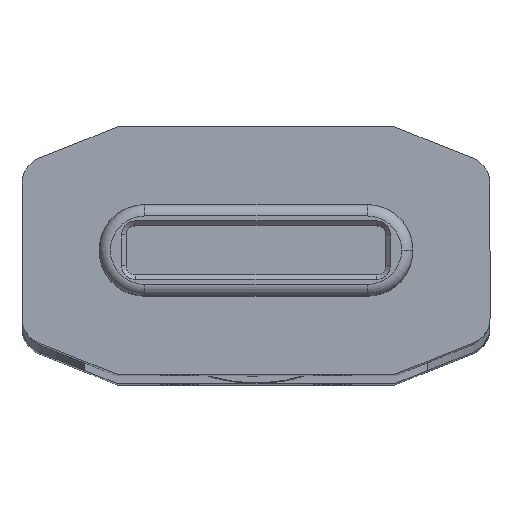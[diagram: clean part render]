
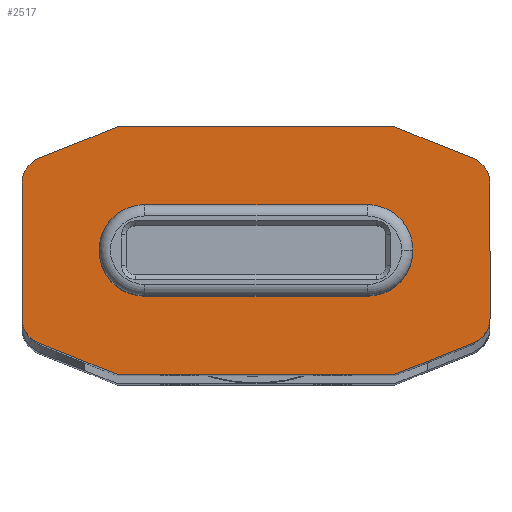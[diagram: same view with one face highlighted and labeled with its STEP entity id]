
A CAD part, top view. The second image highlights one B-rep face of the part: STEP entity #2517.
In plain terms, the highlighted planar face has unit normal (0, 0, 1) as drawn and (0, 0, -1) by its records, which use the part's own axes.
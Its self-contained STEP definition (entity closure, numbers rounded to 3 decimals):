
#146 = CARTESIAN_POINT ( 'NONE',  ( 2.925, 1.2, 0. ) ) ;
#154 = CARTESIAN_POINT ( 'NONE',  ( -6.15, -1.776, 0. ) ) ;
#155 = CARTESIAN_POINT ( 'NONE',  ( 5.71, -2.426, 0. ) ) ;
#159 = CARTESIAN_POINT ( 'NONE',  ( 3.65, -3.25, 0. ) ) ;
#160 = CARTESIAN_POINT ( 'NONE',  ( -5.71, 2.426, 0. ) ) ;
#169 = CARTESIAN_POINT ( 'NONE',  ( -2.925, 1.2, 0. ) ) ;
#296 = EDGE_CURVE ( 'NONE', #2759, #2791, #940, .T. ) ;
#311 = EDGE_CURVE ( 'NONE', #2791, #2383, #938, .T. ) ;
#326 = EDGE_CURVE ( 'NONE', #2383, #2074, #937, .T. ) ;
#424 = CARTESIAN_POINT ( 'NONE',  ( 0., 0., 0. ) ) ;
#429 = PLANE ( 'NONE',  #518 ) ;
#434 = DIRECTION ( 'NONE',  ( 0., 0., 1. ) ) ;
#435 = DIRECTION ( 'NONE',  ( 1., 0., 0. ) ) ;
#518 = AXIS2_PLACEMENT_3D ( 'NONE', #424, #434, #435 ) ;
#851 = CIRCLE ( 'NONE', #1250, 1.2 ) ;
#892 = LINE ( 'NONE', #1882, #897 ) ;
#897 = VECTOR ( 'NONE', #1889, 1000. ) ;
#898 = LINE ( 'NONE', #1892, #901 ) ;
#900 = LINE ( 'NONE', #1905, #913 ) ;
#901 = VECTOR ( 'NONE', #1893, 1000. ) ;
#910 = CIRCLE ( 'NONE', #1255, 0.7 ) ;
#913 = VECTOR ( 'NONE', #1910, 1000. ) ;
#923 = LINE ( 'NONE', #1923, #924 ) ;
#924 = VECTOR ( 'NONE', #1924, 1000. ) ;
#925 = CIRCLE ( 'NONE', #1256, 0.7 ) ;
#926 = LINE ( 'NONE', #1925, #928 ) ;
#927 = LINE ( 'NONE', #1935, #930 ) ;
#928 = VECTOR ( 'NONE', #1926, 1000. ) ;
#929 = CIRCLE ( 'NONE', #1257, 0.7 ) ;
#930 = VECTOR ( 'NONE', #1936, 1000. ) ;
#931 = LINE ( 'NONE', #1930, #933 ) ;
#932 = CIRCLE ( 'NONE', #1258, 0.7 ) ;
#933 = VECTOR ( 'NONE', #1931, 1000. ) ;
#934 = LINE ( 'NONE', #1937, #936 ) ;
#935 = CIRCLE ( 'NONE', #1259, 1.2 ) ;
#936 = VECTOR ( 'NONE', #1938, 1000. ) ;
#937 = LINE ( 'NONE', #1942, #939 ) ;
#938 = CIRCLE ( 'NONE', #1260, 1.2 ) ;
#939 = VECTOR ( 'NONE', #1943, 1000. ) ;
#940 = LINE ( 'NONE', #1947, #942 ) ;
#942 = VECTOR ( 'NONE', #1948, 1000. ) ;
#1250 = AXIS2_PLACEMENT_3D ( 'NONE', #1647, #1648, #1649 ) ;
#1255 = AXIS2_PLACEMENT_3D ( 'NONE', #1927, #1928, #1929 ) ;
#1256 = AXIS2_PLACEMENT_3D ( 'NONE', #1932, #1933, #1934 ) ;
#1257 = AXIS2_PLACEMENT_3D ( 'NONE', #1939, #1940, #1941 ) ;
#1258 = AXIS2_PLACEMENT_3D ( 'NONE', #1944, #1945, #1946 ) ;
#1259 = AXIS2_PLACEMENT_3D ( 'NONE', #1949, #1950, #1951 ) ;
#1260 = AXIS2_PLACEMENT_3D ( 'NONE', #1952, #1953, #1954 ) ;
#1647 = CARTESIAN_POINT ( 'NONE',  ( 2.925, 0., 0. ) ) ;
#1648 = DIRECTION ( 'NONE',  ( 0., 0., -1. ) ) ;
#1649 = DIRECTION ( 'NONE',  ( -1., 0., 0. ) ) ;
#1725 = CARTESIAN_POINT ( 'NONE',  ( -5.71, -2.426, 0. ) ) ;
#1733 = CARTESIAN_POINT ( 'NONE',  ( 5.71, 2.426, 0. ) ) ;
#1736 = CARTESIAN_POINT ( 'NONE',  ( -3.65, 3.25, 0. ) ) ;
#1766 = CARTESIAN_POINT ( 'NONE',  ( 4.125, 0., 0. ) ) ;
#1767 = CARTESIAN_POINT ( 'NONE',  ( 2.925, -1.2, 0. ) ) ;
#1775 = CARTESIAN_POINT ( 'NONE',  ( 3.65, 3.25, 0. ) ) ;
#1782 = CARTESIAN_POINT ( 'NONE',  ( 6.15, 1.776, 0. ) ) ;
#1792 = CARTESIAN_POINT ( 'NONE',  ( 6.15, -1.776, 0. ) ) ;
#1796 = CARTESIAN_POINT ( 'NONE',  ( -3.65, -3.25, 0. ) ) ;
#1797 = CARTESIAN_POINT ( 'NONE',  ( -6.15, 1.776, 0. ) ) ;
#1799 = CARTESIAN_POINT ( 'NONE',  ( -2.925, -1.2, 0. ) ) ;
#1882 = CARTESIAN_POINT ( 'NONE',  ( -6.15, -3.25, 0. ) ) ;
#1889 = DIRECTION ( 'NONE',  ( 1., 0., 0. ) ) ;
#1892 = CARTESIAN_POINT ( 'NONE',  ( 6.15, 3.25, 0. ) ) ;
#1893 = DIRECTION ( 'NONE',  ( 0., 1., 0. ) ) ;
#1905 = CARTESIAN_POINT ( 'NONE',  ( -6.15, 3.25, 0. ) ) ;
#1910 = DIRECTION ( 'NONE',  ( -1., 0., 0. ) ) ;
#1923 = CARTESIAN_POINT ( 'NONE',  ( 3.65, 3.25, 0. ) ) ;
#1924 = DIRECTION ( 'NONE',  ( 0.928, -0.371, 0. ) ) ;
#1925 = CARTESIAN_POINT ( 'NONE',  ( 6.15, -2.25, 0. ) ) ;
#1926 = DIRECTION ( 'NONE',  ( -0.928, -0.371, 0. ) ) ;
#1927 = CARTESIAN_POINT ( 'NONE',  ( 5.45, 1.776, 0. ) ) ;
#1928 = DIRECTION ( 'NONE',  ( 0., 0., -1. ) ) ;
#1929 = DIRECTION ( 'NONE',  ( 1., 0., 0. ) ) ;
#1930 = CARTESIAN_POINT ( 'NONE',  ( -6.15, 3.25, 0. ) ) ;
#1931 = DIRECTION ( 'NONE',  ( 0., -1., 0. ) ) ;
#1932 = CARTESIAN_POINT ( 'NONE',  ( 5.45, -1.776, 0. ) ) ;
#1933 = DIRECTION ( 'NONE',  ( 0., 0., -1. ) ) ;
#1934 = DIRECTION ( 'NONE',  ( 1., 0., 0. ) ) ;
#1935 = CARTESIAN_POINT ( 'NONE',  ( -3.65, -3.25, 0. ) ) ;
#1936 = DIRECTION ( 'NONE',  ( -0.928, 0.371, 0. ) ) ;
#1937 = CARTESIAN_POINT ( 'NONE',  ( -6.15, 2.25, 0. ) ) ;
#1938 = DIRECTION ( 'NONE',  ( 0.928, 0.371, 0. ) ) ;
#1939 = CARTESIAN_POINT ( 'NONE',  ( -5.45, -1.776, 0. ) ) ;
#1940 = DIRECTION ( 'NONE',  ( 0., 0., -1. ) ) ;
#1941 = DIRECTION ( 'NONE',  ( 1., 0., 0. ) ) ;
#1942 = CARTESIAN_POINT ( 'NONE',  ( 2.925, 1.2, 0. ) ) ;
#1943 = DIRECTION ( 'NONE',  ( 1., 0., 0. ) ) ;
#1944 = CARTESIAN_POINT ( 'NONE',  ( -5.45, 1.776, 0. ) ) ;
#1945 = DIRECTION ( 'NONE',  ( 0., 0., -1. ) ) ;
#1946 = DIRECTION ( 'NONE',  ( 1., 0., 0. ) ) ;
#1947 = CARTESIAN_POINT ( 'NONE',  ( 2.925, -1.2, 0. ) ) ;
#1948 = DIRECTION ( 'NONE',  ( -1., 0., 0. ) ) ;
#1949 = CARTESIAN_POINT ( 'NONE',  ( 2.925, 0., 0. ) ) ;
#1950 = DIRECTION ( 'NONE',  ( 0., 0., -1. ) ) ;
#1951 = DIRECTION ( 'NONE',  ( -1., 0., 0. ) ) ;
#1952 = CARTESIAN_POINT ( 'NONE',  ( -2.925, 0., 0. ) ) ;
#1953 = DIRECTION ( 'NONE',  ( 0., 0., -1. ) ) ;
#1954 = DIRECTION ( 'NONE',  ( -1., 0., 0. ) ) ;
#2074 = VERTEX_POINT ( 'NONE', #146 ) ;
#2083 = VERTEX_POINT ( 'NONE', #154 ) ;
#2084 = VERTEX_POINT ( 'NONE', #155 ) ;
#2241 = VERTEX_POINT ( 'NONE', #159 ) ;
#2319 = VERTEX_POINT ( 'NONE', #160 ) ;
#2383 = VERTEX_POINT ( 'NONE', #169 ) ;
#2517 = ADVANCED_FACE ( 'NONE', ( #3205, #3212 ), #429, .F. ) ;
#2697 = EDGE_CURVE ( 'NONE', #2758, #2759, #851, .T. ) ;
#2715 = VERTEX_POINT ( 'NONE', #1725 ) ;
#2725 = VERTEX_POINT ( 'NONE', #1733 ) ;
#2728 = VERTEX_POINT ( 'NONE', #1736 ) ;
#2758 = VERTEX_POINT ( 'NONE', #1766 ) ;
#2759 = VERTEX_POINT ( 'NONE', #1767 ) ;
#2767 = VERTEX_POINT ( 'NONE', #1775 ) ;
#2774 = VERTEX_POINT ( 'NONE', #1782 ) ;
#2784 = VERTEX_POINT ( 'NONE', #1792 ) ;
#2788 = VERTEX_POINT ( 'NONE', #1796 ) ;
#2789 = VERTEX_POINT ( 'NONE', #1797 ) ;
#2791 = VERTEX_POINT ( 'NONE', #1799 ) ;
#2816 = ORIENTED_EDGE ( 'NONE', *, *, #3325, .T. ) ;
#2824 = ORIENTED_EDGE ( 'NONE', *, *, #3326, .T. ) ;
#2827 = ORIENTED_EDGE ( 'NONE', *, *, #3324, .T. ) ;
#2842 = ORIENTED_EDGE ( 'NONE', *, *, #3327, .T. ) ;
#2843 = ORIENTED_EDGE ( 'NONE', *, *, #3308, .F. ) ;
#2854 = ORIENTED_EDGE ( 'NONE', *, *, #3310, .F. ) ;
#2932 = ORIENTED_EDGE ( 'NONE', *, *, #3328, .T. ) ;
#2933 = ORIENTED_EDGE ( 'NONE', *, *, #3329, .T. ) ;
#2934 = ORIENTED_EDGE ( 'NONE', *, *, #3330, .F. ) ;
#2935 = ORIENTED_EDGE ( 'NONE', *, *, #3331, .T. ) ;
#2936 = ORIENTED_EDGE ( 'NONE', *, *, #3332, .T. ) ;
#2937 = ORIENTED_EDGE ( 'NONE', *, *, #3317, .F. ) ;
#2938 = ORIENTED_EDGE ( 'NONE', *, *, #3333, .F. ) ;
#2939 = ORIENTED_EDGE ( 'NONE', *, *, #326, .F. ) ;
#2940 = ORIENTED_EDGE ( 'NONE', *, *, #311, .F. ) ;
#2941 = ORIENTED_EDGE ( 'NONE', *, *, #296, .F. ) ;
#2942 = ORIENTED_EDGE ( 'NONE', *, *, #2697, .F. ) ;
#2950 = EDGE_LOOP ( 'NONE', ( #2827, #2816, #2854, #2824, #2842, #2843, #2932, #2933, #2934, #2935, #2936, #2937 ) ) ;
#2962 = EDGE_LOOP ( 'NONE', ( #2938, #2939, #2940, #2941, #2942 ) ) ;
#3205 = FACE_OUTER_BOUND ( 'NONE', #2950, .T. ) ;
#3212 = FACE_BOUND ( 'NONE', #2962, .T. ) ;
#3308 = EDGE_CURVE ( 'NONE', #2788, #2241, #892, .T. ) ;
#3310 = EDGE_CURVE ( 'NONE', #2784, #2774, #898, .T. ) ;
#3317 = EDGE_CURVE ( 'NONE', #2767, #2728, #900, .T. ) ;
#3324 = EDGE_CURVE ( 'NONE', #2767, #2725, #923, .T. ) ;
#3325 = EDGE_CURVE ( 'NONE', #2725, #2774, #910, .T. ) ;
#3326 = EDGE_CURVE ( 'NONE', #2784, #2084, #925, .T. ) ;
#3327 = EDGE_CURVE ( 'NONE', #2084, #2241, #926, .T. ) ;
#3328 = EDGE_CURVE ( 'NONE', #2788, #2715, #927, .T. ) ;
#3329 = EDGE_CURVE ( 'NONE', #2715, #2083, #929, .T. ) ;
#3330 = EDGE_CURVE ( 'NONE', #2789, #2083, #931, .T. ) ;
#3331 = EDGE_CURVE ( 'NONE', #2789, #2319, #932, .T. ) ;
#3332 = EDGE_CURVE ( 'NONE', #2319, #2728, #934, .T. ) ;
#3333 = EDGE_CURVE ( 'NONE', #2074, #2758, #935, .T. ) ;
